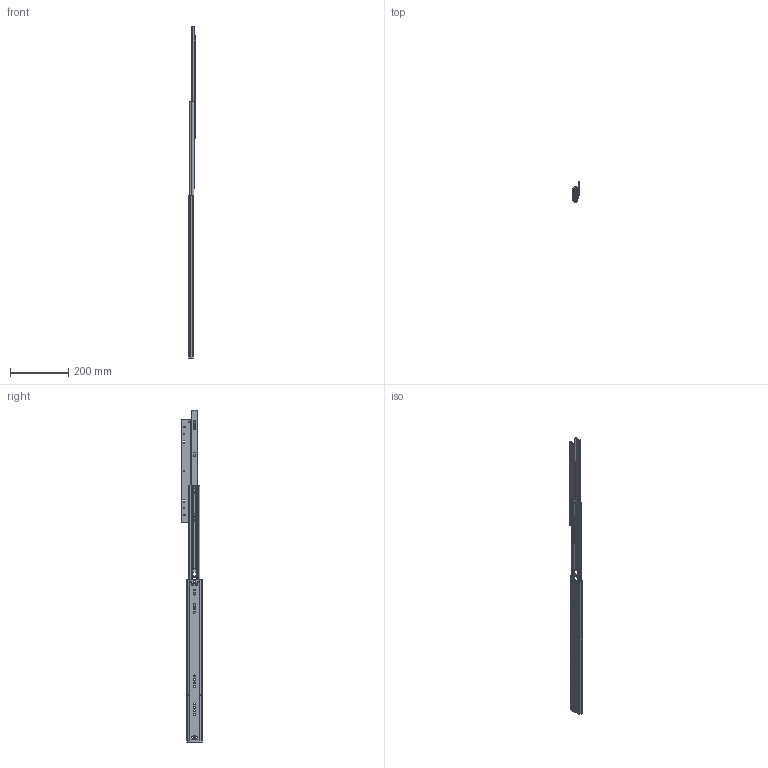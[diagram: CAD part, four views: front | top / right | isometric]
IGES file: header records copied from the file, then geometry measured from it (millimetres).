
Global section: file name: No Iges File Name specified; native system: Autodesk Inventor 2012; preprocessor: AutoDesk Inventor Iges Exporter R2012; author: HV83751; date: 20130708.085120; units: inch
Bounding box: 22.61 x 70.18 x 1143.46 mm (x, y, z)
Surface area: 267219.9 mm2
Topology: 6 solids, 31 shells, 1600 faces, 4724 edges, 3047 vertices
Faces by surface type: plane 801, revolution 417, cylinder 327, bspline 46, torus 9
